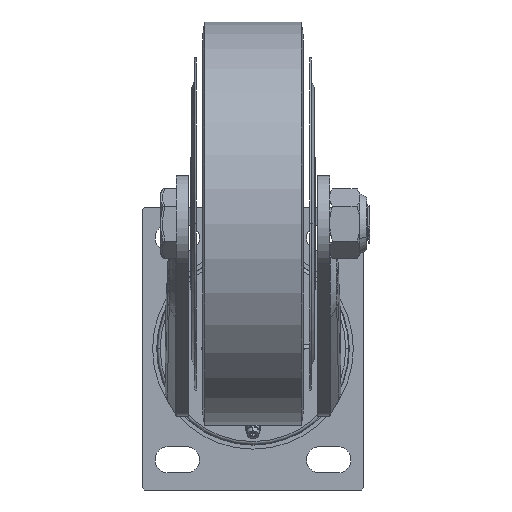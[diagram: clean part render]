
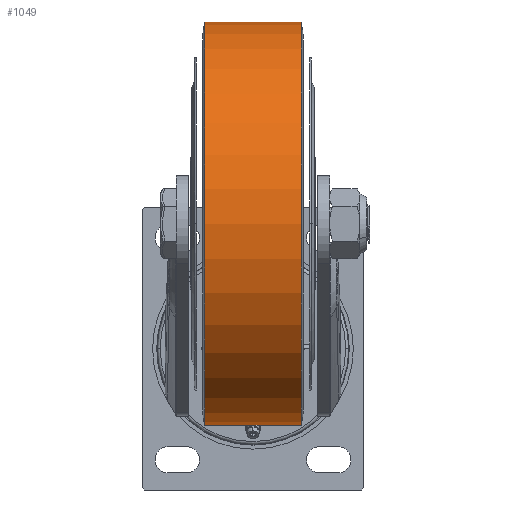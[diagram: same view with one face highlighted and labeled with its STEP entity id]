
A CAD part, left-side view. The second image highlights one B-rep face of the part: STEP entity #1049.
In plain terms, the highlighted cylindrical face has radius 100 mm (diameter 200 mm), a partial arc.
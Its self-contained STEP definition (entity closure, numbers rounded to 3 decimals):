
#353=DIRECTION('',(0.,1.,0.));
#354=VECTOR('',#353,48.);
#355=CARTESIAN_POINT('',(0.,-24.,-100.));
#356=LINE('',#355,#354);
#357=DIRECTION('',(0.,1.,0.));
#358=VECTOR('',#357,48.);
#359=CARTESIAN_POINT('',(0.,-24.,100.));
#360=LINE('',#359,#358);
#361=CARTESIAN_POINT('',(0.,-24.,0.));
#362=DIRECTION('',(0.,1.,0.));
#363=DIRECTION('',(0.,0.,-1.));
#364=AXIS2_PLACEMENT_3D('',#361,#362,#363);
#384=CARTESIAN_POINT('',(0.,24.,0.));
#385=DIRECTION('',(0.,1.,0.));
#386=DIRECTION('',(0.,0.,-1.));
#387=AXIS2_PLACEMENT_3D('',#384,#385,#386);
#712=CARTESIAN_POINT('',(0.,-24.,-100.));
#714=VERTEX_POINT('',#712);
#715=CARTESIAN_POINT('',(0.,24.,-100.));
#716=VERTEX_POINT('',#715);
#724=CARTESIAN_POINT('',(0.,-24.,100.));
#726=VERTEX_POINT('',#724);
#727=CARTESIAN_POINT('',(0.,24.,100.));
#728=VERTEX_POINT('',#727);
#1035=CARTESIAN_POINT('',(0.,27.5,0.));
#1036=DIRECTION('',(0.,-1.,0.));
#1037=DIRECTION('',(0.,0.,1.));
#1038=AXIS2_PLACEMENT_3D('',#1035,#1036,#1037);
#1039=CYLINDRICAL_SURFACE('',#1038,100.);
#1041=ORIENTED_EDGE('',*,*,#1040,.T.);
#1043=ORIENTED_EDGE('',*,*,#1042,.T.);
#1045=ORIENTED_EDGE('',*,*,#1044,.F.);
#1046=ORIENTED_EDGE('',*,*,#1016,.F.);
#1047=EDGE_LOOP('',(#1041,#1043,#1045,#1046));
#1048=FACE_OUTER_BOUND('',#1047,.F.);
#1049=ADVANCED_FACE('',(#1048),#1039,.T.);
#365=CIRCLE('',#364,100.);
#388=CIRCLE('',#387,100.);
#1016=EDGE_CURVE('',#714,#726,#365,.T.);
#1040=EDGE_CURVE('',#714,#716,#356,.T.);
#1042=EDGE_CURVE('',#716,#728,#388,.T.);
#1044=EDGE_CURVE('',#726,#728,#360,.T.);
